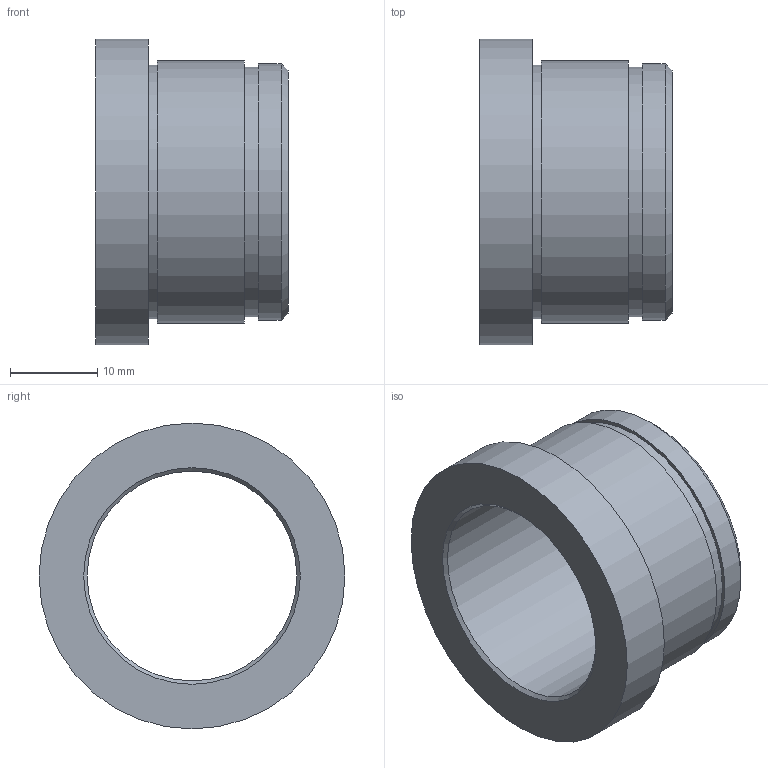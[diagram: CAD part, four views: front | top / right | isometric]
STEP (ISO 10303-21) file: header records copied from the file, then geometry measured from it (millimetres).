
FILE_DESCRIPTION(/* description */ ('Impex Ready, www.impex-ready.pl'),/* implementation_level */ '2;1');
FILE_NAME(/* name */ 'C:\Users\VIKKY\Nextcloud\SM\projekt 10 - części na stronę internetową\Pliki_3D_new\307 Tuleje BG05\307 BG05_STEP\BG05.024022.ipt.step',/* time_stamp */ '2021-12-21T17:22:40+01:00',/* author */ ('SM'),/* organization */ (''),/* preprocessor_version */ 'ST-DEVELOPER v18.1',/* originating_system */ 'Autodesk Inventor 2021',/* authorisation */ '');
FILE_SCHEMA (('AUTOMOTIVE_DESIGN { 1 0 10303 214 3 1 1 }'));
Length unit declared in the file: millimetre
Products named in the file (1): BG05.024022
Bounding box: 22 x 35 x 35 mm (x, y, z)
Volume: 6844 mm3; surface area: 4915.8 mm2
Topology: 1 solids, 1 shells, 15 faces, 27 edges, 18 vertices
Faces by surface type: cylinder 6, plane 6, cone 3
Full cylindrical faces by diameter (mm): 24 x1, 28.6 x1, 29 x1, 29.4 x1, 30 x1, 35 x1
Entity records: 457 total; most frequent: DIRECTION 77, CARTESIAN_POINT 61, ORIENTED_EDGE 54, AXIS2_PLACEMENT_3D 34, EDGE_CURVE 27, EDGE_LOOP 21, CIRCLE 18, VERTEX_POINT 18
